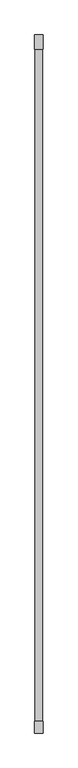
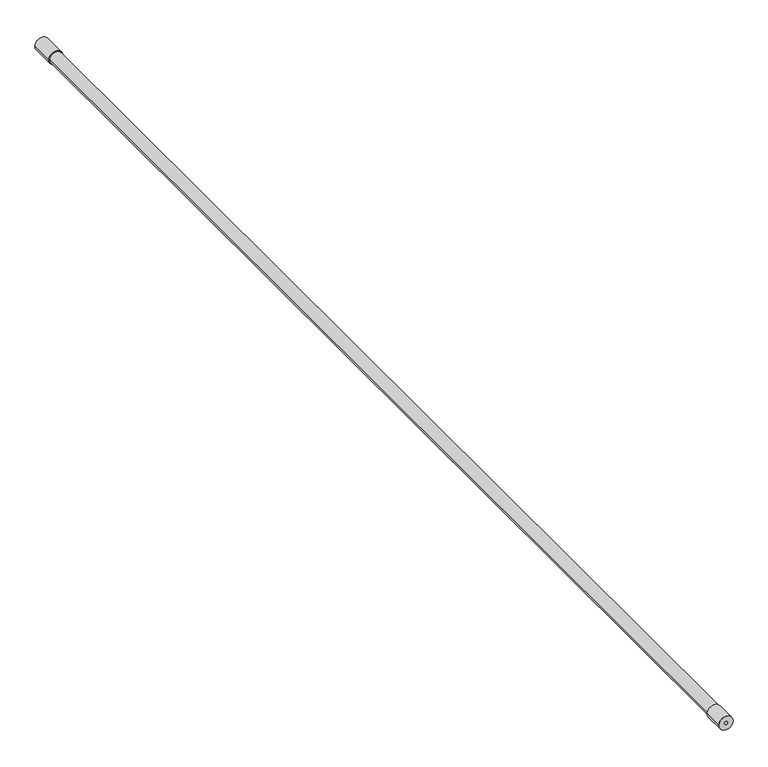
"""IFC4 building model written with IfcOpenShell, lengths in millimetres: proxy geometry, КНС_ШтангаИзоляционная_DKC : NF3000_Стеклопластик_3000 мм."""

from ifc_helpers import new_model, si_unit, point, frame, origin, origin_2d, place, context, project, spatial, circle_curve, trimmed, segment, composite_curve, outline, extrude, source, transform, mapped, element, save


def security_devices_88e37f12(model_context):
    return source(origin(), model_context, "Body", "SweptSolid", [
        extrude(outline(composite_curve([segment(trimmed(circle_curve(origin_2d(), 18.0), [point((0.0, -18.0))], [point((0.0, 18.0))], False, "CARTESIAN"), True, "CONTINUOUS"), segment(trimmed(circle_curve(origin_2d(), 18.0), [point((0.0, 18.0))], [point((0.0, -18.0))], False, "CARTESIAN"), True, "CONTINUOUS")], self_intersect=False), holes=[composite_curve([segment(trimmed(circle_curve(origin_2d(), 4.0), [point((0.0, -4.0))], [point((0.0, 4.0))], True, "CARTESIAN"), True, "CONTINUOUS"), segment(trimmed(circle_curve(origin_2d(), 4.0), [point((0.0, 4.0))], [point((0.0, -4.0))], True, "CARTESIAN"), True, "CONTINUOUS")], self_intersect=False)]), frame((0.0, 2939.0, 0.0), z_axis=(0.0, 1.0, 0.0), x_axis=(0.0, 0.0, 1.0)), (0.0, 0.0, 1.0), 61.0),
        extrude(outline(composite_curve([segment(trimmed(circle_curve(origin_2d(), 16.0), [point((0.0, -16.0))], [point((0.0, 16.0))], False, "CARTESIAN"), True, "CONTINUOUS"), segment(trimmed(circle_curve(origin_2d(), 16.0), [point((0.0, 16.0))], [point((0.0, -16.0))], False, "CARTESIAN"), True, "CONTINUOUS")], self_intersect=False)), frame((0.0, 51.0, 0.0), z_axis=(0.0, 1.0, 0.0), x_axis=(0.0, 0.0, 1.0)), (0.0, 0.0, 1.0), 2888.0),
        extrude(outline(composite_curve([segment(trimmed(circle_curve(origin_2d(), 18.0), [point((0.0, -18.0))], [point((0.0, 18.0))], False, "CARTESIAN"), True, "CONTINUOUS"), segment(trimmed(circle_curve(origin_2d(), 18.0), [point((0.0, 18.0))], [point((0.0, -18.0))], False, "CARTESIAN"), True, "CONTINUOUS")], self_intersect=False), holes=[composite_curve([segment(trimmed(circle_curve(origin_2d(), 4.0), [point((0.0, -4.0))], [point((0.0, 4.0))], True, "CARTESIAN"), True, "CONTINUOUS"), segment(trimmed(circle_curve(origin_2d(), 4.0), [point((0.0, 4.0))], [point((0.0, -4.0))], True, "CARTESIAN"), True, "CONTINUOUS")], self_intersect=False)]), frame((0.0, 0.0, 0.0), z_axis=(0.0, 1.0, 0.0), x_axis=(0.0, 0.0, 1.0)), (0.0, 0.0, 1.0), 51.0),
    ])


if __name__ == "__main__":
    model = new_model("IFC4")
    model_context = context("Model", 3, world=origin())
    ifc_project = project(units=[si_unit("LENGTHUNIT", "METRE", prefix="MILLI")], contexts=[model_context])
    site = spatial("IfcSite", under=ifc_project)
    building = spatial("IfcBuilding", under=site)
    placement = place(None, origin())
    security_devices_shape = security_devices_88e37f12(model_context)
    element("IfcBuildingElementProxy", 1, Name="КНС_ШтангаИзоляционная_DKC : NF3000_Стеклопластик_3000 мм", ObjectType="КНС_ШтангаИзоляционная_DKC : NF3000_Стеклопластик_3000 мм", at=placement, inside=building, context=model_context, shape_type="MappedRepresentation", body=[
        mapped(security_devices_shape, transform((0.0, 0.0, 0.0), x_axis=(1.0, 0.0, 0.0), y_axis=(0.0, 1.0, 0.0), z_axis=(0.0, 0.0, 1.0))),
    ])
    save(model, "model.ifc")
